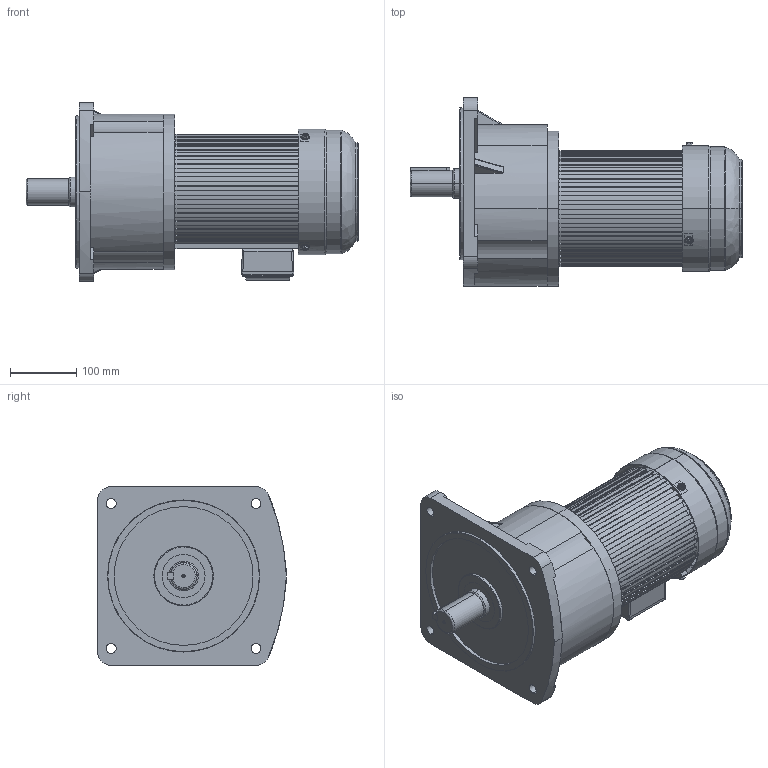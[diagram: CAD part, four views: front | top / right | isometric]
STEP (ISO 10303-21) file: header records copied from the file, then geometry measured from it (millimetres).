
FILE_DESCRIPTION (( 'STEP AP214' ), '1' );
FILE_NAME ('CV40-2200W去字改颜色.STEP', '2024-01-11T05:56:12', ( '微软用户' ), ( '微软中国' ), 'SwSTEP 2.0', 'SolidWorks 2014', '' );
FILE_SCHEMA (( 'AUTOMOTIVE_DESIGN' ));
Length unit declared in the file: millimetre
Products named in the file (9): 瑞珔欶蹟佪; 奻裔(臏ㄘ; 菁碟ㄗ臏ㄘ; 190瑞珔欶; 160綴裔; 諉盄碟蹟佪; 2200W萇儂俋褲; CV40; CV40-2200W去字改颜色
Assembly tree (13 placements, depth 2):
  CV40-2200W去字改颜色
    CV40
    2200W萇儂俋褲
    160綴裔
    190瑞珔欶
    菁碟ㄗ臏ㄘ
    奻裔(臏ㄘ
    諉盄碟蹟佪  x4
    瑞珔欶蹟佪  x3
Bounding box: 502.26 x 285.46 x 270 mm (x, y, z)
Volume: 11739375.3 mm3; surface area: 1479495.2 mm2
Topology: 20 solids, 20 shells, 2087 faces, 5717 edges, 3759 vertices
Faces by surface type: cylinder 963, plane 921, bspline 137, cone 66
Entity records: 88607 total; most frequent: CARTESIAN_POINT 41231, ORIENTED_EDGE 9884, DIRECTION 9313, EDGE_CURVE 4942, VERTEX_POINT 3252, AXIS2_PLACEMENT_3D 3183, VECTOR 2947, LINE 2947
